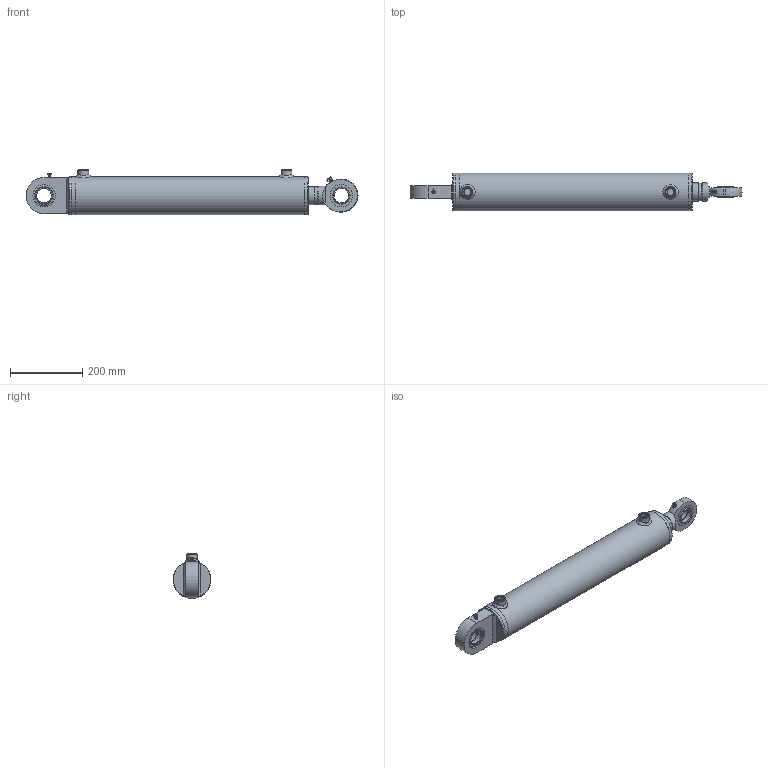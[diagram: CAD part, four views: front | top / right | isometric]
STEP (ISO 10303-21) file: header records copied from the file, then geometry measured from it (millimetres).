
FILE_DESCRIPTION( ( 'Unknown' ), '1' );
FILE_NAME( 'E:/LIBRERIA_3d/CILINDRI/HMB/HMB090500500.stp', 'Unknown', ( 'Unknown' ), ( 'Unknown' ), 'PSStep 17.0.49', 'Unknown', ' ' );
FILE_SCHEMA( ( 'AUTOMOTIVE_DESIGN { 1 0 10303 214 1 1 1 1 }' ) );
Length unit declared in the file: millimetre
Products named in the file (38): CT00090033; CG10509050; CSTSF040N0; AN00006001; CSTS040N_CORPO-oa0; CSCSEI0062; CSCSEI0062-oa1; STL0901050500-oa8; Saldatura d'angolo 1-oa6; MAT_PRIMA_TUBO_FT10509000-oa7; CBSC220800; CSTSF040C0; tsc40c_CORPO; HM0090500500; CF00090105; CBS0800000; APG0800000; CDA0003320; Saldatura con preparazione 1-oa4; Saldatura d'angolo 1-oa5; SBL0500900500; CSTS040N00; CGE0400000; APGR013000; CSTS040C00; Assem1; Saldatura d'angolo 3-oa2; Saldatura d'angolo 2-oa3
Assembly tree (30 placements, depth 4):
  Saldatura d'angolo 1-oa6
  Saldatura d'angolo 1-oa6
  Saldatura d'angolo 1-oa5
  Saldatura d'angolo 1-oa5
  Assem1
    CSTS040N00
      CGE0400000
      APGR013000
      CSTSF040N0
        AN00006001
        CSTS040N_CORPO-oa0
        CSCSEI0062
        CSCSEI0062-oa1
    CSTS040C00
      CGE0400000
      APGR013000
      CSTSF040C0
        tsc40c_CORPO
        AN00006001
    HM0090500500
      CF00090105
      CBS0800000
      APG0800000  x2
      CDA0003320
      Saldatura con preparazione 1-oa4
      Saldatura con preparazione 1-oa4
      SBL0500900500
      CG10509050
        CG10509050
      CT00090033
        CT00090033
      STL0901050500-oa8
        MAT_PRIMA_TUBO_FT10509000-oa7
        CBSC220800
Bounding box: 920 x 105 x 125 mm (x, y, z)
Volume: 3856688.3 mm3; surface area: 760237.6 mm2
Topology: 32 solids, 32 shells, 378 faces, 784 edges, 505 vertices
Faces by surface type: plane 154, cylinder 104, cone 41, torus 40, bspline 30, sphere 9
Full cylindrical faces by diameter (mm): 2.5 x8, 4 x1, 4.25 x2, 5 x6, 6 x2, 8 x4, 9 x2, 12 x1, 18.631 x2, 19.5 x2, 20.95 x2, 26 x2, 30 x2, 32.4 x1, 33 x5, 39.2 x1, 40 x4, 50 x6, 52 x1, 53 x3, 58.6 x1, 60 x1, 62 x8, 65 x2, 70 x1, 81.5 x1, 84.15 x2, 88.31 x2, 89.9 x1, 90 x1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
Entity records: 15735 total; most frequent: CARTESIAN_POINT 6479, DIRECTION 1404, ORIENTED_EDGE 932, AXIS2_PLACEMENT_3D 630, EDGE_LOOP 592, FACE_OUTER_BOUND 470, EDGE_CURVE 466, VERTEX_POINT 389
